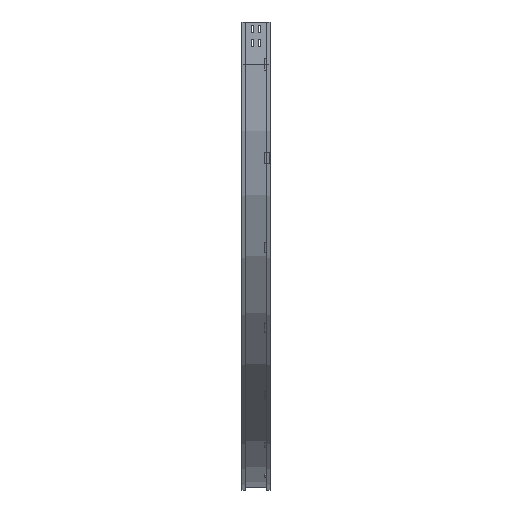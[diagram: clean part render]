
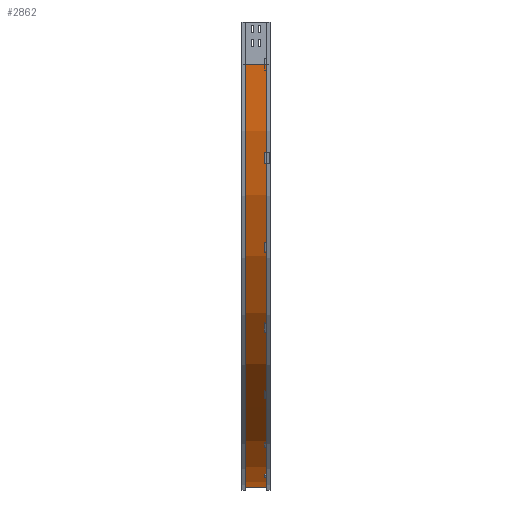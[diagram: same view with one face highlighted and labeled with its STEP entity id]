
A CAD part, left-side view. The second image highlights one B-rep face of the part: STEP entity #2862.
In plain terms, the highlighted cylindrical face has radius 1500 mm (diameter 3000 mm), a partial arc.
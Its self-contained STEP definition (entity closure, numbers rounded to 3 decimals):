
#123 = CARTESIAN_POINT ( 'NONE',  ( 1509., 88., -150. ) ) ;
#192 = VECTOR ( 'NONE', #1441, 1000. ) ;
#237 = ORIENTED_EDGE ( 'NONE', *, *, #560, .T. ) ;
#378 = VERTEX_POINT ( 'NONE', #3756 ) ;
#560 = EDGE_CURVE ( 'NONE', #3100, #4253, #655, .T. ) ;
#655 = LINE ( 'NONE', #2835, #192 ) ;
#765 = CARTESIAN_POINT ( 'NONE',  ( 1509., 12., -150. ) ) ;
#925 = DIRECTION ( 'NONE',  ( 0., -1., 0. ) ) ;
#1163 = EDGE_CURVE ( 'NONE', #3787, #4253, #3435, .T. ) ;
#1430 = CARTESIAN_POINT ( 'NONE',  ( 9., 12., -150. ) ) ;
#1441 = DIRECTION ( 'NONE',  ( 0., -1., 0. ) ) ;
#1535 = DIRECTION ( 'NONE',  ( -1., 0., 0. ) ) ;
#1560 = EDGE_LOOP ( 'NONE', ( #2403, #4029, #4364, #237 ) ) ;
#1758 = CARTESIAN_POINT ( 'NONE',  ( 9., 12., -150. ) ) ;
#1782 = CARTESIAN_POINT ( 'NONE',  ( 1509., 12., -1650. ) ) ;
#1799 = LINE ( 'NONE', #1758, #2182 ) ;
#2182 = VECTOR ( 'NONE', #3830, 1000. ) ;
#2202 = DIRECTION ( 'NONE',  ( 0., -1., 0. ) ) ;
#2251 = AXIS2_PLACEMENT_3D ( 'NONE', #765, #925, #3768 ) ;
#2351 = FACE_OUTER_BOUND ( 'NONE', #1560, .T. ) ;
#2403 = ORIENTED_EDGE ( 'NONE', *, *, #1163, .F. ) ;
#2533 = EDGE_CURVE ( 'NONE', #378, #3787, #1799, .T. ) ;
#2634 = CARTESIAN_POINT ( 'NONE',  ( 1509., 0., -150. ) ) ;
#2835 = CARTESIAN_POINT ( 'NONE',  ( 1509., 12., -1650. ) ) ;
#2862 = ADVANCED_FACE ( 'NONE', ( #2351 ), #3440, .T. ) ;
#3100 = VERTEX_POINT ( 'NONE', #3618 ) ;
#3435 = CIRCLE ( 'NONE', #2251, 1500. ) ;
#3440 = CYLINDRICAL_SURFACE ( 'NONE', #4366, 1500. ) ;
#3542 = EDGE_CURVE ( 'NONE', #378, #3100, #3707, .T. ) ;
#3618 = CARTESIAN_POINT ( 'NONE',  ( 1509., 88., -1650. ) ) ;
#3707 = CIRCLE ( 'NONE', #4133, 1500. ) ;
#3756 = CARTESIAN_POINT ( 'NONE',  ( 9., 88., -150. ) ) ;
#3768 = DIRECTION ( 'NONE',  ( -1., 0., 0. ) ) ;
#3787 = VERTEX_POINT ( 'NONE', #1430 ) ;
#3830 = DIRECTION ( 'NONE',  ( 0., -1., 0. ) ) ;
#4026 = DIRECTION ( 'NONE',  ( 0., 0., -1. ) ) ;
#4029 = ORIENTED_EDGE ( 'NONE', *, *, #2533, .F. ) ;
#4133 = AXIS2_PLACEMENT_3D ( 'NONE', #123, #2202, #1535 ) ;
#4253 = VERTEX_POINT ( 'NONE', #1782 ) ;
#4364 = ORIENTED_EDGE ( 'NONE', *, *, #3542, .T. ) ;
#4366 = AXIS2_PLACEMENT_3D ( 'NONE', #2634, #4388, #4026 ) ;
#4388 = DIRECTION ( 'NONE',  ( 0., -1., 0. ) ) ;
